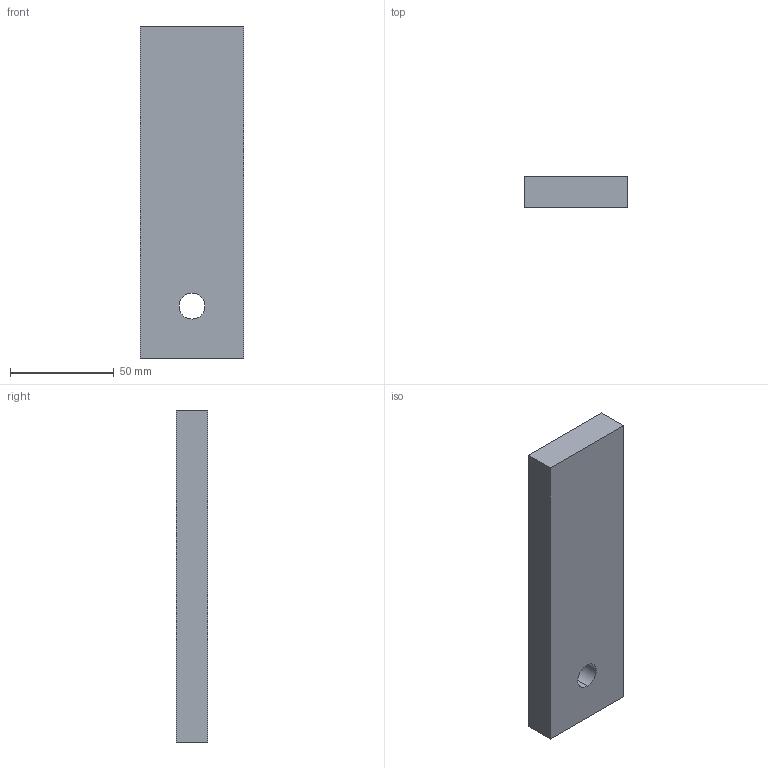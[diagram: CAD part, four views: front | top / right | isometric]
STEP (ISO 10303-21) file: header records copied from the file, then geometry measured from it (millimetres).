
FILE_DESCRIPTION (( 'STEP AP203' ), '1' );
FILE_NAME ('Druckplatte 110405.STEP', '2021-03-16T06:06:49', ( '' ), ( '' ), 'SwSTEP 2.0', 'SolidWorks 2013', '' );
FILE_SCHEMA (( 'CONFIG_CONTROL_DESIGN' ));
Length unit declared in the file: millimetre
Products named in the file (1): Druckplatte 110405
Bounding box: 50 x 15 x 160 mm (x, y, z)
Volume: 118159.2 mm3; surface area: 22643.6 mm2
Topology: 1 solids, 1 shells, 8 faces, 18 edges, 12 vertices
Faces by surface type: plane 6, cylinder 2
Entity records: 309 total; most frequent: DIRECTION 40, CARTESIAN_POINT 39, ORIENTED_EDGE 36, EDGE_CURVE 18, LINE 14, VECTOR 14, AXIS2_PLACEMENT_3D 13, VERTEX_POINT 12
